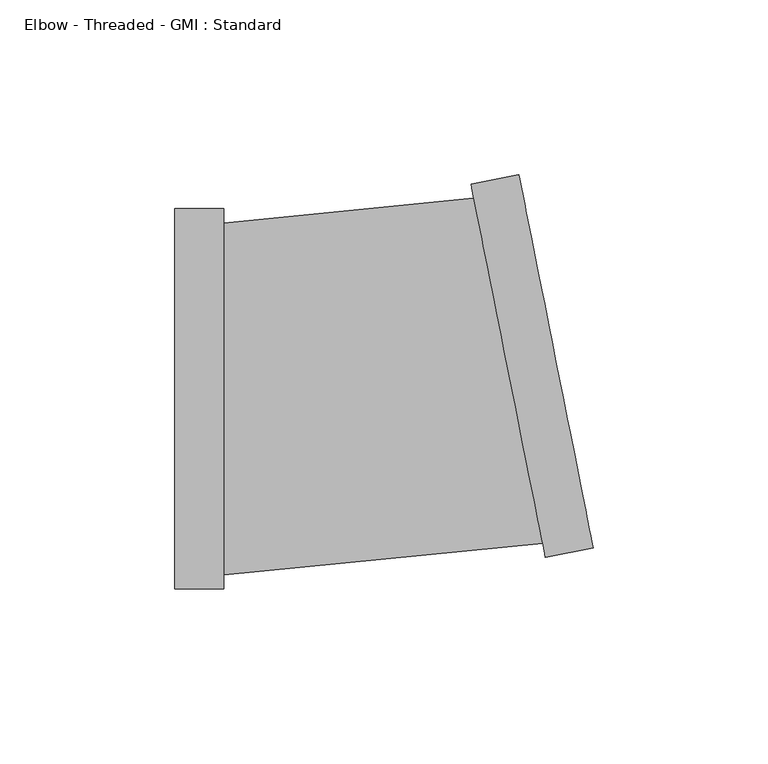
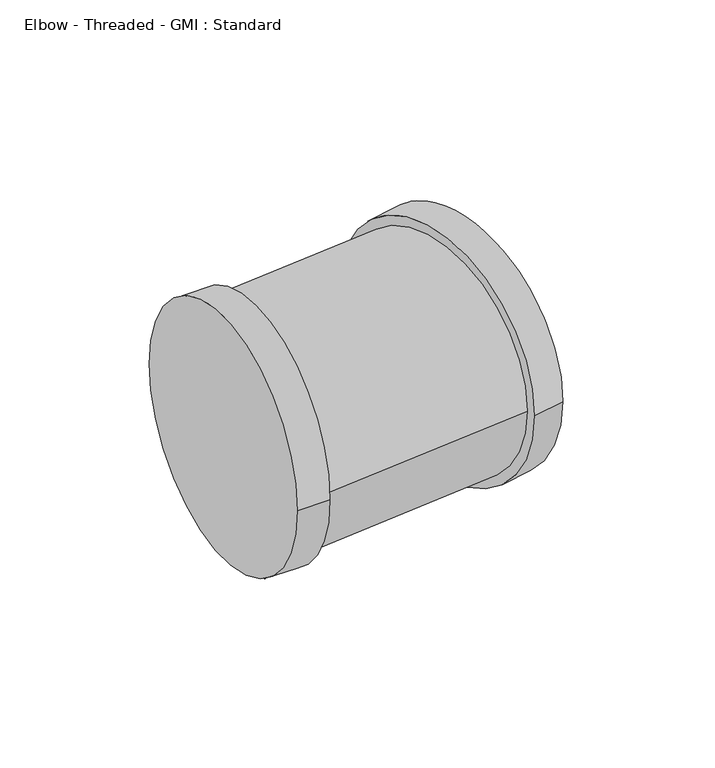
"""IFC4 building model written with IfcOpenShell, lengths in millimetres: pipe fitting geometry, Elbow - Threaded - GMI : Standard."""

from ifc_helpers import new_model, si_unit, point, frame, origin, place, context, project, spatial, circle_curve, ellipse_curve, trimmed, source, transform, mapped, element, save
from ifc_brep_helpers import plane_surface, cylinder_surface, revolved_surface, advanced_brep


def elbow_threaded_gmi_standard_334b2d91(model_context):
    return source(origin(), model_context, "Body", "AdvancedBrep", [
        advanced_brep(
        [(-55.0, -54.4, 0.0), (-55.0, 54.4, 0.0), (-41.1, -54.4, 0.0), (-41.1, 54.4, 0.0), (-41.1, -50.32, 0.0), (-41.1, 50.32, 0.0), (50.9231885, -45.336507, 0.0), (29.6973615, 61.3729315, 0.0), (30.49333, 57.3713275, 0.0), (50.12722, -41.3349031, 0.0), (64.5561039, -42.6247515, 0.0), (43.3302769, 64.084687, 0.0)],
        [
            (0, 1, circle_curve(frame((-55.0, 0.0, 0.0), z_axis=(-1.0, 0.0, 0.0), x_axis=(0.0, 1.0, 0.0)), 54.4)),
            (1, 0, circle_curve(frame((-55.0, 0.0, 0.0), z_axis=(-1.0, 0.0, 0.0), x_axis=(0.0, 1.0, 0.0)), 54.4)),
            (2, 3, circle_curve(frame((-41.1, 0.0, 0.0), z_axis=(1.0, 0.0, 0.0), x_axis=(0.0, 1.0, 0.0)), 54.4)),
            (3, 2, circle_curve(frame((-41.1, 0.0, 0.0), z_axis=(1.0, 0.0, 0.0), x_axis=(0.0, 1.0, 0.0)), 54.4)),
            (4, 5, circle_curve(frame((-41.1, 0.0, 0.0), z_axis=(-1.0, 0.0, 0.0), x_axis=(0.0, 1.0, 0.0)), 50.32)),
            (5, 4, circle_curve(frame((-41.1, 0.0, 0.0), z_axis=(-1.0, 0.0, 0.0), x_axis=(0.0, 1.0, 0.0)), 50.32)),
            (0, 2),
            (3, 1),
            (6, 7, circle_curve(frame((40.310275, 8.0182122, 0.0), z_axis=(-0.980785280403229, -0.1950903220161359, 0.0), x_axis=(-0.1950903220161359, 0.980785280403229, 0.0)), 54.4)),
            (7, 6, circle_curve(frame((40.310275, 8.0182122, 0.0), z_axis=(-0.980785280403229, -0.1950903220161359, 0.0), x_axis=(-0.1950903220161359, 0.980785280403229, 0.0)), 54.4)),
            (8, 9, circle_curve(frame((40.310275, 8.0182122, 0.0), z_axis=(0.9807852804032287, 0.19509032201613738, 0.0), x_axis=(-0.19509032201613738, 0.9807852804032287, 0.0)), 50.32)),
            (9, 8, circle_curve(frame((40.310275, 8.0182122, 0.0), z_axis=(0.9807852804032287, 0.19509032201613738, 0.0), x_axis=(-0.19509032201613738, 0.9807852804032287, 0.0)), 50.32)),
            (10, 11, circle_curve(frame((53.9431904, 10.7299677, 0.0), z_axis=(0.980785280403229, 0.1950903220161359, 0.0), x_axis=(-0.1950903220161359, 0.980785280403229, 0.0)), 54.4)),
            (11, 10, circle_curve(frame((53.9431904, 10.7299677, 0.0), z_axis=(0.980785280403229, 0.1950903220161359, 0.0), x_axis=(-0.1950903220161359, 0.980785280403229, 0.0)), 54.4)),
            (6, 10),
            (11, 7),
            (8, 5, circle_curve(frame((-41.1, 417.2953029, 0.0), z_axis=(0.0, 0.0, -1.0), x_axis=(0.0, -1.0, 0.0)), 366.9753029)),
            (4, 9, circle_curve(frame((-41.1, 417.2953029, 0.0), z_axis=(0.0, 0.0, 1.0), x_axis=(0.0, -1.0, 0.0)), 467.6153029)),
        ],
        [
            plane_surface(frame((-55.0, 0.0, 0.0), z_axis=(-1.0, 0.0, 0.0), x_axis=(0.0, 0.0, 1.0))),
            plane_surface(frame((-41.1, 0.0, 0.0), z_axis=(1.0, 0.0, 0.0), x_axis=(0.0, 0.0, 1.0))),
            cylinder_surface(frame((-55.0, 0.0, 0.0), z_axis=(-1.0, 0.0, 0.0), x_axis=(0.0, 1.0, 0.0)), 54.4),
            plane_surface(frame((40.310275, 8.0182122, 0.0), z_axis=(-0.980785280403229, -0.1950903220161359, 0.0), x_axis=(0.0, 0.0, 1.0))),
            plane_surface(frame((53.9431904, 10.7299677, 0.0), z_axis=(0.980785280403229, 0.1950903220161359, 0.0), x_axis=(0.0, 0.0, 1.0))),
            cylinder_surface(frame((40.310275, 8.0182122, 0.0), z_axis=(-0.980785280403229, -0.1950903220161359, 0.0), x_axis=(-0.1950903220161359, 0.980785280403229, 0.0)), 54.4),
            revolved_surface(trimmed(ellipse_curve(frame((-41.1, 0.0, 0.0), z_axis=(-1.0, 0.0, 0.0), x_axis=(0.0, 1.0, 0.0)), 50.32, 50.32), [point((-41.1, -50.32, 0.0))], [point((-41.1, 50.32, 0.0))], True, "CARTESIAN"), (-41.1, 417.2953029, 0.0), (0.0, 0.0, 1.0)),
            revolved_surface(trimmed(ellipse_curve(frame((-41.1, 0.0, 0.0), z_axis=(-1.0, 0.0, 0.0), x_axis=(0.0, 1.0, 0.0)), 50.32, 50.32), [point((-41.1, 50.32, 0.0))], [point((-41.1, -50.32, 0.0))], True, "CARTESIAN"), (-41.1, 417.2953029, 0.0), (0.0, 0.0, 1.0)),
        ],
        [
            (0, [[1, 2]]),
            (1, [[3, 4], [5, 6]]),
            (2, [[-1, 7, -4, 8]]),
            (2, [[-2, -8, -3, -7]]),
            (3, [[9, 10], [11, 12]]),
            (4, [[13, 14]]),
            (5, [[-9, 15, -14, 16]]),
            (5, [[-10, -16, -13, -15]]),
            (6, [[17, -5, 18, -11]]),
            (7, [[-17, -12, -18, -6]]),
        ],
    ),
    ])


if __name__ == "__main__":
    model = new_model("IFC4")
    model_context = context("Model", 3, world=origin())
    ifc_project = project(units=[si_unit("LENGTHUNIT", "METRE", prefix="MILLI")], contexts=[model_context])
    site = spatial("IfcSite", under=ifc_project)
    building = spatial("IfcBuilding", under=site)
    placement = place(None, origin())
    elbow_threaded_gmi_standard_shape = elbow_threaded_gmi_standard_334b2d91(model_context)
    element("IfcPipeFitting", 1, ObjectType="Elbow - Threaded - GMI : Standard", at=placement, inside=building, context=model_context, shape_type="MappedRepresentation", body=[
        mapped(elbow_threaded_gmi_standard_shape, transform((0.0, 0.0, 0.0), x_axis=(1.0, 0.0, 0.0), y_axis=(0.0, 1.0, 0.0), z_axis=(0.0, 0.0, 1.0))),
    ])
    save(model, "model.ifc")
